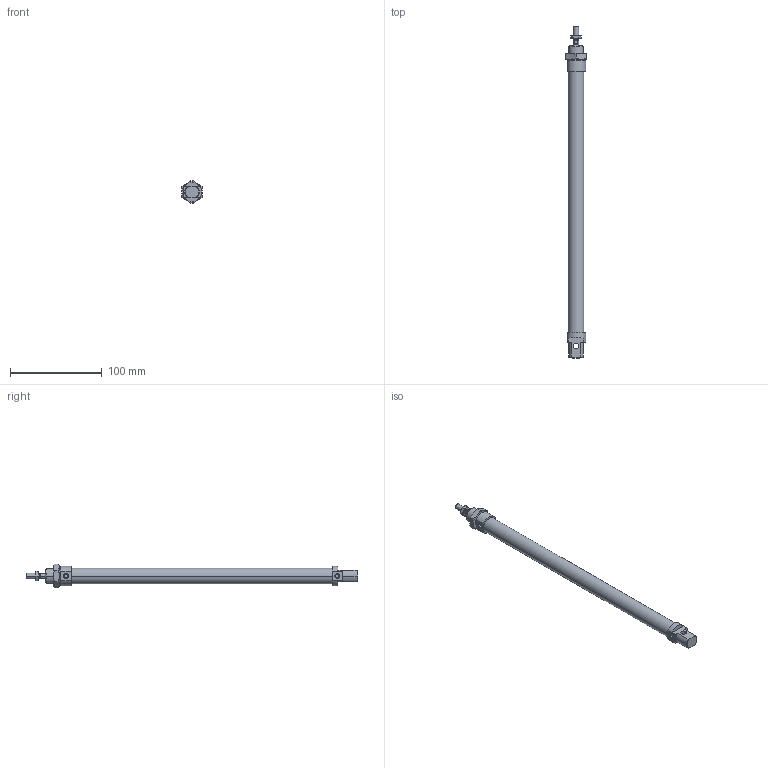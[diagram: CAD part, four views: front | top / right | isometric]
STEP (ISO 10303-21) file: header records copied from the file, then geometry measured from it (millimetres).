
FILE_DESCRIPTION((''),'2;1');
FILE_NAME('I:\DOC-EDP\Lib-3d\1200\CILINDRI\1280\1280_16_0250.stp','2003-04-07T15:05:53',('maffial1'),(''),'Autodesk Inventor (R) 6.0','Autodesk Inventor (R) 6.0','');
FILE_SCHEMA(('AUTOMOTIVE_DESIGN { 1 0 10303 214 1 1 1 1 }'));
Length unit declared in the file: millimetre
Products named in the file (5): 1280_16_0250; S1280_16_250; 1200_16_05; 1200_16_06; C1280_16_250
Assembly tree (4 placements, depth 2):
  1280_16_0250
    S1280_16_250
    1200_16_05
    1200_16_06
    C1280_16_250
Bounding box: 22 x 361 x 25.4 mm (x, y, z)
Volume: 80948.9 mm3; surface area: 31980.4 mm2
Topology: 4 solids, 4 shells, 121 faces, 268 edges, 162 vertices
Faces by surface type: cone 40, plane 39, cylinder 22, bspline 20
Entity records: 3653 total; most frequent: CARTESIAN_POINT 976, DIRECTION 556, ORIENTED_EDGE 536, EDGE_CURVE 268, AXIS2_PLACEMENT_3D 230, VERTEX_POINT 162, EDGE_LOOP 134, FACE_OUTER_BOUND 121
